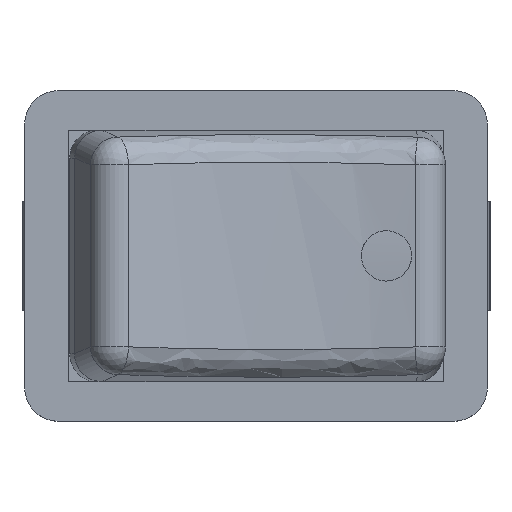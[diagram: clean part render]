
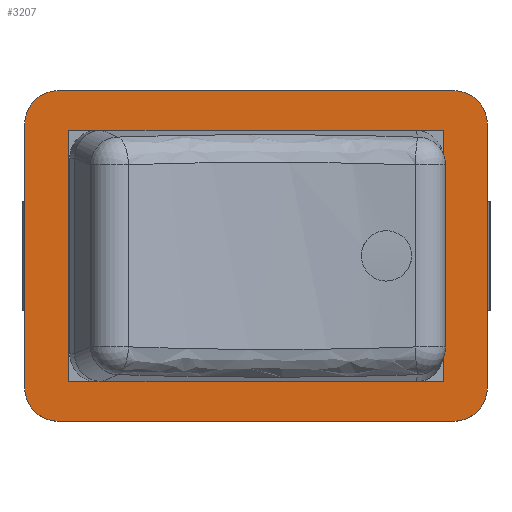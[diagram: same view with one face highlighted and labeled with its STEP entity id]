
A CAD part, top view. The second image highlights one B-rep face of the part: STEP entity #3207.
In plain terms, the highlighted planar face has unit normal (0, 0, 1).
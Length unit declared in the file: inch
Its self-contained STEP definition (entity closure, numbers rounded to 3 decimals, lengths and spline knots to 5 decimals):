
#80=FACE_BOUND('',#510,.T.);
#187=PLANE('',#3505);
#335=FACE_OUTER_BOUND('',#509,.T.);
#509=EDGE_LOOP('',(#2796,#2797,#2798,#2799,#2800,#2801,#2802,#2803));
#510=EDGE_LOOP('',(#2804,#2805,#2806,#2807));
#598=LINE('',#4535,#994);
#603=LINE('',#4549,#999);
#868=LINE('',#5103,#1264);
#870=LINE('',#5107,#1266);
#872=LINE('',#5111,#1268);
#874=LINE('',#5114,#1270);
#875=LINE('',#5116,#1271);
#876=LINE('',#5118,#1272);
#994=VECTOR('',#3652,0.3937);
#999=VECTOR('',#3667,0.3937);
#1264=VECTOR('',#4156,0.3937);
#1266=VECTOR('',#4160,0.3937);
#1268=VECTOR('',#4164,0.3937);
#1270=VECTOR('',#4168,0.3937);
#1271=VECTOR('',#4171,0.3937);
#1272=VECTOR('',#4174,0.3937);
#1364=CIRCLE('',#3376,0.06);
#1369=CIRCLE('',#3384,0.06);
#1370=CIRCLE('',#3386,0.06);
#1371=CIRCLE('',#3389,0.06);
#1410=VERTEX_POINT('',#4471);
#1411=VERTEX_POINT('',#4472);
#1440=VERTEX_POINT('',#4534);
#1441=VERTEX_POINT('',#4538);
#1442=VERTEX_POINT('',#4542);
#1443=VERTEX_POINT('',#4543);
#1444=VERTEX_POINT('',#4548);
#1445=VERTEX_POINT('',#4552);
#1620=VERTEX_POINT('',#5100);
#1621=VERTEX_POINT('',#5102);
#1622=VERTEX_POINT('',#5106);
#1623=VERTEX_POINT('',#5110);
#1706=EDGE_CURVE('',#1410,#1411,#1364,.T.);
#1737=EDGE_CURVE('',#1440,#1411,#598,.T.);
#1739=EDGE_CURVE('',#1440,#1441,#1369,.T.);
#1741=EDGE_CURVE('',#1442,#1443,#1370,.T.);
#1744=EDGE_CURVE('',#1444,#1443,#603,.T.);
#1746=EDGE_CURVE('',#1444,#1445,#1371,.T.);
#2020=EDGE_CURVE('',#1621,#1620,#868,.T.);
#2022=EDGE_CURVE('',#1622,#1621,#870,.T.);
#2024=EDGE_CURVE('',#1623,#1622,#872,.T.);
#2026=EDGE_CURVE('',#1620,#1623,#874,.T.);
#2027=EDGE_CURVE('',#1442,#1441,#875,.T.);
#2028=EDGE_CURVE('',#1410,#1445,#876,.T.);
#2796=ORIENTED_EDGE('',*,*,#1706,.F.);
#2797=ORIENTED_EDGE('',*,*,#2028,.T.);
#2798=ORIENTED_EDGE('',*,*,#1746,.F.);
#2799=ORIENTED_EDGE('',*,*,#1744,.T.);
#2800=ORIENTED_EDGE('',*,*,#1741,.F.);
#2801=ORIENTED_EDGE('',*,*,#2027,.T.);
#2802=ORIENTED_EDGE('',*,*,#1739,.F.);
#2803=ORIENTED_EDGE('',*,*,#1737,.T.);
#2804=ORIENTED_EDGE('',*,*,#2024,.T.);
#2805=ORIENTED_EDGE('',*,*,#2022,.T.);
#2806=ORIENTED_EDGE('',*,*,#2020,.T.);
#2807=ORIENTED_EDGE('',*,*,#2026,.T.);
#3207=ADVANCED_FACE('',(#335,#80),#187,.T.);
#3376=AXIS2_PLACEMENT_3D('',#4473,#3612,#3613);
#3384=AXIS2_PLACEMENT_3D('',#4539,#3656,#3657);
#3386=AXIS2_PLACEMENT_3D('',#4544,#3661,#3662);
#3389=AXIS2_PLACEMENT_3D('',#4553,#3671,#3672);
#3505=AXIS2_PLACEMENT_3D('',#5119,#4175,#4176);
#3612=DIRECTION('center_axis',(0.,0.,-1.));
#3613=DIRECTION('ref_axis',(0.707,-0.707,0.));
#3652=DIRECTION('',(1.,0.,0.));
#3656=DIRECTION('center_axis',(0.,0.,-1.));
#3657=DIRECTION('ref_axis',(-0.707,-0.707,0.));
#3661=DIRECTION('center_axis',(0.,0.,-1.));
#3662=DIRECTION('ref_axis',(-0.707,0.707,0.));
#3667=DIRECTION('',(-1.,0.,0.));
#3671=DIRECTION('center_axis',(0.,0.,-1.));
#3672=DIRECTION('ref_axis',(0.707,0.707,0.));
#4156=DIRECTION('',(0.,-1.,0.));
#4160=DIRECTION('',(1.,0.,0.));
#4164=DIRECTION('',(0.,1.,0.));
#4168=DIRECTION('',(-1.,0.,0.));
#4171=DIRECTION('',(0.,-1.,0.));
#4174=DIRECTION('',(0.,1.,0.));
#4175=DIRECTION('center_axis',(0.,0.,1.));
#4176=DIRECTION('ref_axis',(1.,0.,0.));
#4471=CARTESIAN_POINT('',(0.827,0.06,0.079));
#4472=CARTESIAN_POINT('',(0.767,0.,0.079));
#4473=CARTESIAN_POINT('Origin',(0.767,0.06,0.079));
#4534=CARTESIAN_POINT('',(0.06,0.,0.079));
#4535=CARTESIAN_POINT('',(0.,0.,0.079));
#4538=CARTESIAN_POINT('',(0.,0.06,0.079));
#4539=CARTESIAN_POINT('Origin',(0.06,0.06,0.079));
#4542=CARTESIAN_POINT('',(0.,0.531,0.079));
#4543=CARTESIAN_POINT('',(0.06,0.591,0.079));
#4544=CARTESIAN_POINT('Origin',(0.06,0.531,0.079));
#4548=CARTESIAN_POINT('',(0.767,0.591,0.079));
#4549=CARTESIAN_POINT('',(0.827,0.591,0.079));
#4552=CARTESIAN_POINT('',(0.827,0.531,0.079));
#4553=CARTESIAN_POINT('Origin',(0.767,0.531,0.079));
#5100=CARTESIAN_POINT('',(0.748,0.071,0.079));
#5102=CARTESIAN_POINT('',(0.748,0.52,0.079));
#5103=CARTESIAN_POINT('',(0.748,0.40775,0.079));
#5106=CARTESIAN_POINT('',(0.079,0.52,0.079));
#5107=CARTESIAN_POINT('',(0.24625,0.52,0.079));
#5110=CARTESIAN_POINT('',(0.079,0.071,0.079));
#5111=CARTESIAN_POINT('',(0.079,0.18325,0.079));
#5114=CARTESIAN_POINT('',(0.58075,0.071,0.079));
#5116=CARTESIAN_POINT('',(0.,0.591,0.079));
#5118=CARTESIAN_POINT('',(0.827,0.,0.079));
#5119=CARTESIAN_POINT('Origin',(0.4135,0.2955,0.079));
